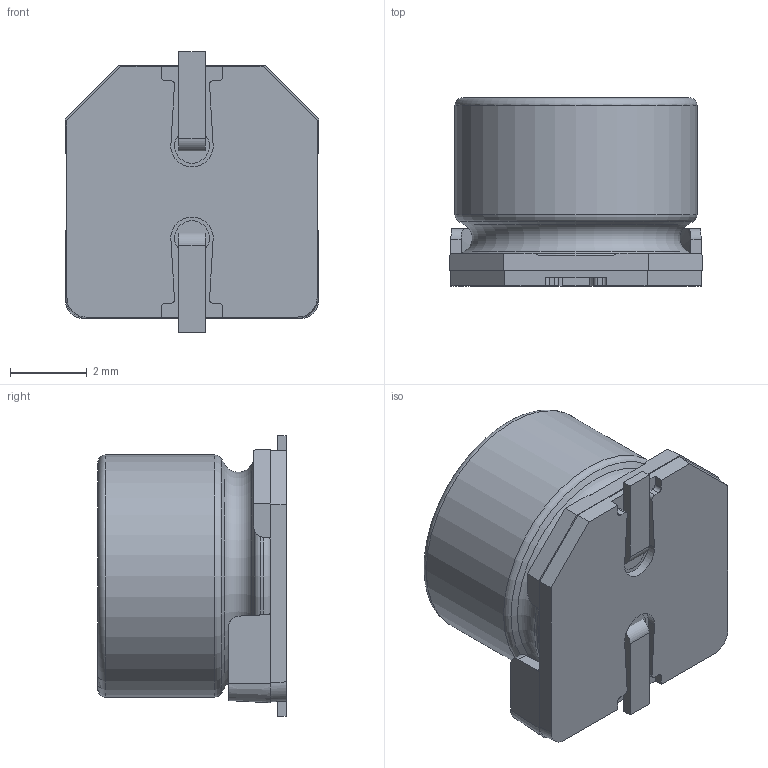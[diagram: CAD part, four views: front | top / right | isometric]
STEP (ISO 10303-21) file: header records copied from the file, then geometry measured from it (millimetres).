
FILE_DESCRIPTION (( 'STEP AP214' ), '1' );
FILE_NAME ('C5.STEP', '2019-07-09T23:56:22', ( '全社標準PC（ver1803）' ), ( 'パナソニック株式会社' ), 'SwSTEP 2.0', 'SolidWorks 2019', '' );
FILE_SCHEMA (( 'AUTOMOTIVE_DESIGN' ));
Length unit declared in the file: millimetre
Products named in the file (1): C5
Bounding box: 6.6 x 4.9 x 7.3 mm (x, y, z)
Surface area: 252.7 mm2 (no closed solid volume)
Topology: 0 solids, 6 shells, 101 faces, 292 edges, 198 vertices
Faces by surface type: plane 58, cylinder 32, cone 6, torus 5
Full cylindrical faces by diameter (mm): 6.25 x1, 6.3 x1
Entity records: 4491 total; most frequent: CARTESIAN_POINT 797, ORIENTED_EDGE 537, DIRECTION 501, EDGE_CURVE 282, VERTEX_POINT 197, VECTOR 183, LINE 183, AXIS2_PLACEMENT_3D 159
